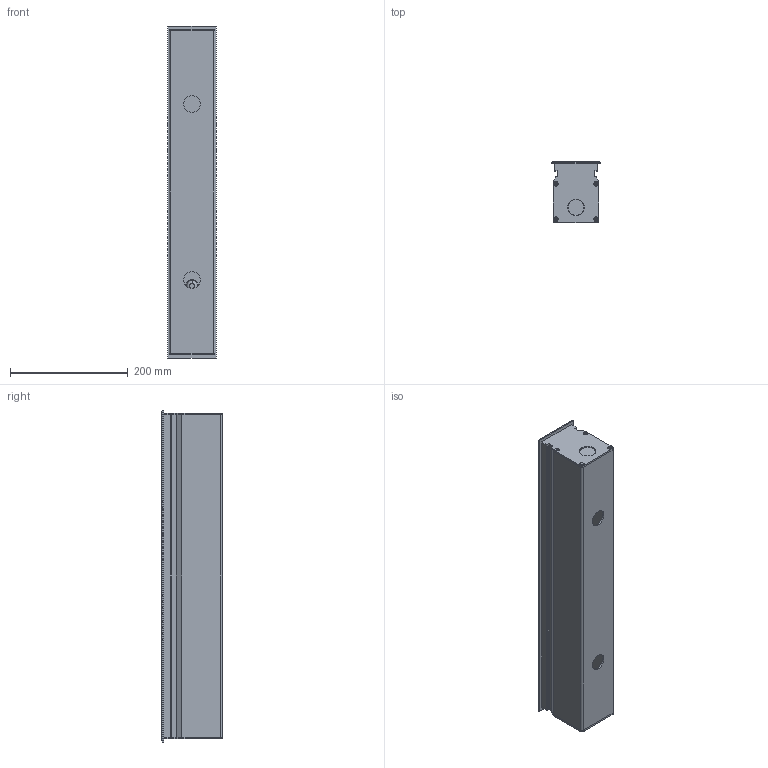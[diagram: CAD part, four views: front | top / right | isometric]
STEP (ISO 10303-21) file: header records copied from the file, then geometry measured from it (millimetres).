
FILE_DESCRIPTION((''),'2;1');
FILE_NAME('XB2RKB1257_ASM','2021-09-30T',('Administrator'),(''),'PRO/ENGINEER BY PARAMETRIC TECHNOLOGY CORPORATION, 2014000','PRO/ENGINEER BY PARAMETRIC TECHNOLOGY CORPORATION, 2014000','');
FILE_SCHEMA(('CONFIG_CONTROL_DESIGN'));
Products named in the file (29): 2RL-12DT-YOUBIAN; 2RLZUOYOUGAI; YUMAITONG-YUUBIAN-12; YUMAIJIANZUOYOUGAI; 2RQ-02; PRT0012; YUMAIJIAN-YBIAN-12_ASM; ZUOYOUGAIGUIJIAODIAN; 2R-24MIANGAIYOUBIANKUANG; 2R-24BL; 2RLZUOYOUGAI-002; SANREBAN; XINGUANGYUANBAN; XIN-LENS; XINGUANGYUAN_ASM; YABAN; ZHUANZHOU-01; ZHUANZHOU-02; M3LUOZHU; FANGXUANWANG; XUANZHUAN_ASM; 2DF-KDP; M12; 2CFFANGSHUIQUAN; ____-____7; ____2; PG9_____ASM_ASM_ASM_ASM; 50W-QUDONG; XB2RKB1257_ASM
Assembly tree (43 placements, depth 4):
  XB2RKB1257_ASM
    2RL-12DT-YOUBIAN
    2RLZUOYOUGAI
    YUMAIJIAN-YBIAN-12_ASM
      YUMAITONG-YUUBIAN-12
      YUMAIJIANZUOYOUGAI  x2
      2RQ-02
      PRT0012
    ZUOYOUGAIGUIJIAODIAN  x2
    2R-24MIANGAIYOUBIANKUANG
    2R-24BL
    2RLZUOYOUGAI-002
    XUANZHUAN_ASM
      SANREBAN
      XINGUANGYUAN_ASM  x2
        XINGUANGYUANBAN
        XIN-LENS
      YABAN  x2
      ZHUANZHOU-01
      ZHUANZHOU-02
      M3LUOZHU  x6
      FANGXUANWANG  x2
    2DF-KDP
    M12
    2CFFANGSHUIQUAN
    PG9_____ASM_ASM_ASM_ASM
      ____-____7
      ____2
    50W-QUDONG
Bounding box: 83 x 103.3 x 565 mm (x, y, z)
Volume: 1504021 mm3; surface area: 898882.5 mm2
Topology: 45 solids, 45 shells, 2189 faces, 5643 edges, 3668 vertices
Faces by surface type: plane 1305, cylinder 645, cone 117, extrusion 66, bspline 32, torus 24
Entity records: 60686 total; most frequent: CARTESIAN_POINT 20848, ORIENTED_EDGE 8134, DIRECTION 8088, EDGE_CURVE 4067, VECTOR 2702, AXIS2_PLACEMENT_3D 2693, LINE 2636, VERTEX_POINT 2626
